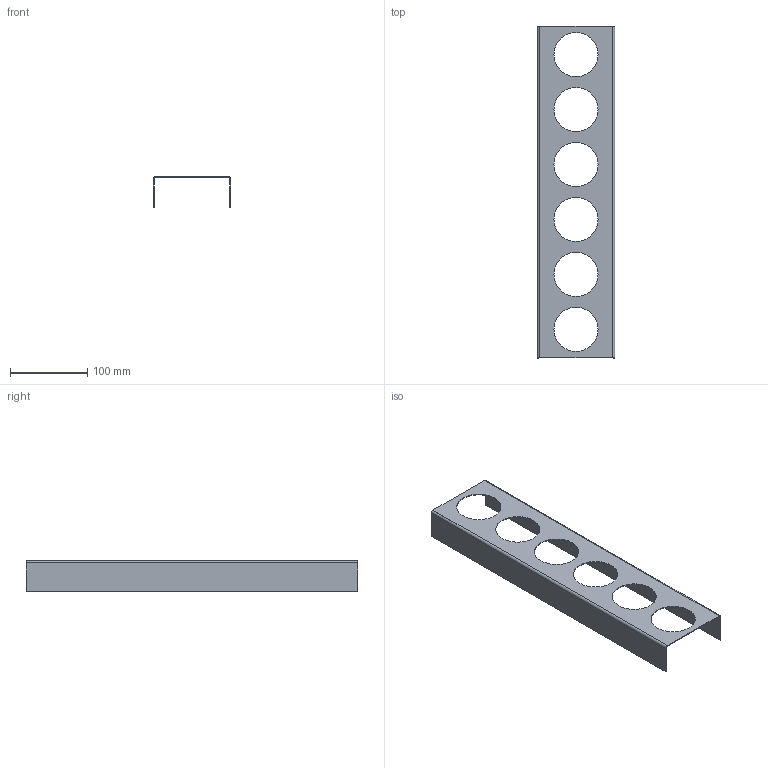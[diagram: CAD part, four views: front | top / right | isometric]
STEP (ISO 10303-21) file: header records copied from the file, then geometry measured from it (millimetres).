
FILE_DESCRIPTION (( 'STEP AP214' ), '1' );
FILE_NAME ('Gewuerzeinsatz_68325-01.STEP', '2010-10-25T13:52:40', ( 'grass' ), ( '' ), 'SwSTEP 2.0', 'SolidWorks 2010', '' );
FILE_SCHEMA (( 'AUTOMOTIVE_DESIGN' ));
Length unit declared in the file: millimetre
Products named in the file (1): Gewuerzeinsatz_68325-01
Bounding box: 100 x 429 x 40 mm (x, y, z)
Volume: 60130.8 mm3; surface area: 122545.7 mm2
Topology: 1 solids, 1 shells, 26 faces, 72 edges, 48 vertices
Faces by surface type: cylinder 16, plane 10
Entity records: 906 total; most frequent: DIRECTION 158, CARTESIAN_POINT 147, ORIENTED_EDGE 144, EDGE_CURVE 72, AXIS2_PLACEMENT_3D 59, VERTEX_POINT 48, VECTOR 40, LINE 40
